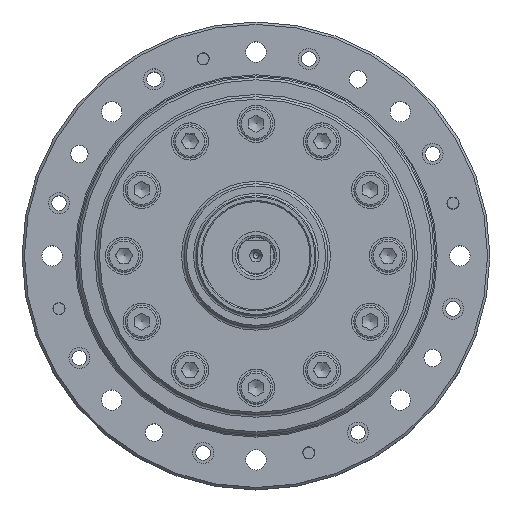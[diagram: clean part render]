
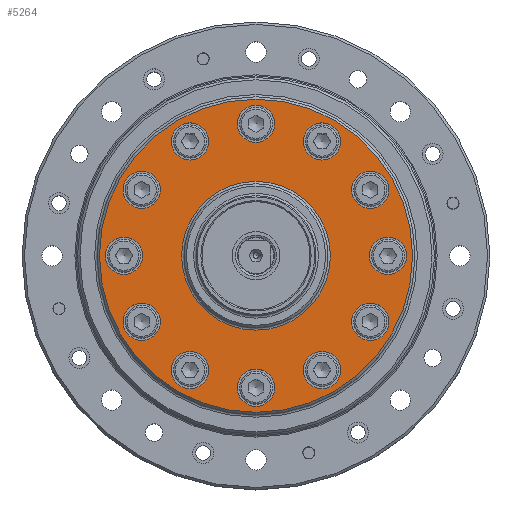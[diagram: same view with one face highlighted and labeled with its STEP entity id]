
A CAD part, top view. The second image highlights one B-rep face of the part: STEP entity #5264.
In plain terms, the highlighted planar face has unit normal (0, 0, 1).
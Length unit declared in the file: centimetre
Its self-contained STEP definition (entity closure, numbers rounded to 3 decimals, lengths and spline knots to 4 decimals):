
#854=PLANE('',#5918);
#1220=FACE_BOUND('',#2166,.T.);
#1221=FACE_BOUND('',#2167,.T.);
#1222=FACE_BOUND('',#2168,.T.);
#1223=FACE_BOUND('',#2169,.T.);
#1224=FACE_BOUND('',#2170,.T.);
#1225=FACE_BOUND('',#2171,.T.);
#1226=FACE_BOUND('',#2172,.T.);
#1227=FACE_BOUND('',#2173,.T.);
#1228=FACE_BOUND('',#2174,.T.);
#1229=FACE_BOUND('',#2175,.T.);
#1230=FACE_BOUND('',#2176,.T.);
#1231=FACE_BOUND('',#2177,.T.);
#1232=FACE_BOUND('',#2178,.T.);
#1521=FACE_OUTER_BOUND('',#2165,.T.);
#2165=EDGE_LOOP('',(#4531));
#2166=EDGE_LOOP('',(#4532));
#2167=EDGE_LOOP('',(#4533));
#2168=EDGE_LOOP('',(#4534));
#2169=EDGE_LOOP('',(#4535));
#2170=EDGE_LOOP('',(#4536));
#2171=EDGE_LOOP('',(#4537));
#2172=EDGE_LOOP('',(#4538));
#2173=EDGE_LOOP('',(#4539));
#2174=EDGE_LOOP('',(#4540));
#2175=EDGE_LOOP('',(#4541));
#2176=EDGE_LOOP('',(#4542));
#2177=EDGE_LOOP('',(#4543));
#2178=EDGE_LOOP('',(#4544));
#2536=CIRCLE('',#5845,0.31);
#2538=CIRCLE('',#5849,0.31);
#2540=CIRCLE('',#5853,0.31);
#2542=CIRCLE('',#5857,0.31);
#2544=CIRCLE('',#5861,0.31);
#2546=CIRCLE('',#5865,0.31);
#2548=CIRCLE('',#5869,0.31);
#2551=CIRCLE('',#5874,0.31);
#2554=CIRCLE('',#5879,0.31);
#2557=CIRCLE('',#5884,0.31);
#2560=CIRCLE('',#5889,0.31);
#2563=CIRCLE('',#5894,0.31);
#2567=CIRCLE('',#5900,2.61);
#2578=CIRCLE('',#5919,1.24);
#2950=VERTEX_POINT('',#8729);
#2952=VERTEX_POINT('',#8735);
#2954=VERTEX_POINT('',#8741);
#2956=VERTEX_POINT('',#8747);
#2958=VERTEX_POINT('',#8753);
#2960=VERTEX_POINT('',#8759);
#2962=VERTEX_POINT('',#8765);
#2965=VERTEX_POINT('',#8773);
#2968=VERTEX_POINT('',#8781);
#2971=VERTEX_POINT('',#8789);
#2974=VERTEX_POINT('',#8797);
#2977=VERTEX_POINT('',#8805);
#2981=VERTEX_POINT('',#8815);
#2992=VERTEX_POINT('',#8845);
#3500=EDGE_CURVE('',#2950,#2950,#2536,.T.);
#3502=EDGE_CURVE('',#2952,#2952,#2538,.T.);
#3504=EDGE_CURVE('',#2954,#2954,#2540,.T.);
#3506=EDGE_CURVE('',#2956,#2956,#2542,.T.);
#3508=EDGE_CURVE('',#2958,#2958,#2544,.T.);
#3510=EDGE_CURVE('',#2960,#2960,#2546,.T.);
#3512=EDGE_CURVE('',#2962,#2962,#2548,.T.);
#3515=EDGE_CURVE('',#2965,#2965,#2551,.T.);
#3518=EDGE_CURVE('',#2968,#2968,#2554,.T.);
#3521=EDGE_CURVE('',#2971,#2971,#2557,.T.);
#3524=EDGE_CURVE('',#2974,#2974,#2560,.T.);
#3527=EDGE_CURVE('',#2977,#2977,#2563,.T.);
#3531=EDGE_CURVE('',#2981,#2981,#2567,.T.);
#3542=EDGE_CURVE('',#2992,#2992,#2578,.T.);
#4531=ORIENTED_EDGE('',*,*,#3531,.F.);
#4532=ORIENTED_EDGE('',*,*,#3527,.T.);
#4533=ORIENTED_EDGE('',*,*,#3524,.T.);
#4534=ORIENTED_EDGE('',*,*,#3521,.T.);
#4535=ORIENTED_EDGE('',*,*,#3518,.T.);
#4536=ORIENTED_EDGE('',*,*,#3515,.T.);
#4537=ORIENTED_EDGE('',*,*,#3512,.T.);
#4538=ORIENTED_EDGE('',*,*,#3510,.T.);
#4539=ORIENTED_EDGE('',*,*,#3508,.T.);
#4540=ORIENTED_EDGE('',*,*,#3506,.T.);
#4541=ORIENTED_EDGE('',*,*,#3504,.T.);
#4542=ORIENTED_EDGE('',*,*,#3502,.T.);
#4543=ORIENTED_EDGE('',*,*,#3500,.T.);
#4544=ORIENTED_EDGE('',*,*,#3542,.F.);
#5264=ADVANCED_FACE('',(#1521,#1220,#1221,#1222,#1223,#1224,#1225,#1226,
#1227,#1228,#1229,#1230,#1231,#1232),#854,.T.);
#5845=AXIS2_PLACEMENT_3D('',#8730,#7117,#7118);
#5849=AXIS2_PLACEMENT_3D('',#8736,#7125,#7126);
#5853=AXIS2_PLACEMENT_3D('',#8742,#7133,#7134);
#5857=AXIS2_PLACEMENT_3D('',#8748,#7141,#7142);
#5861=AXIS2_PLACEMENT_3D('',#8754,#7149,#7150);
#5865=AXIS2_PLACEMENT_3D('',#8760,#7157,#7158);
#5869=AXIS2_PLACEMENT_3D('',#8766,#7165,#7166);
#5874=AXIS2_PLACEMENT_3D('',#8774,#7175,#7176);
#5879=AXIS2_PLACEMENT_3D('',#8782,#7185,#7186);
#5884=AXIS2_PLACEMENT_3D('',#8790,#7195,#7196);
#5889=AXIS2_PLACEMENT_3D('',#8798,#7205,#7206);
#5894=AXIS2_PLACEMENT_3D('',#8806,#7215,#7216);
#5900=AXIS2_PLACEMENT_3D('',#8816,#7227,#7228);
#5918=AXIS2_PLACEMENT_3D('',#8844,#7263,#7264);
#5919=AXIS2_PLACEMENT_3D('',#8846,#7265,#7266);
#7117=DIRECTION('center_axis',(0.,0.,
-1.));
#7118=DIRECTION('ref_axis',(1.,0.,0.));
#7125=DIRECTION('center_axis',(0.,0.,
-1.));
#7126=DIRECTION('ref_axis',(1.,0.,0.));
#7133=DIRECTION('center_axis',(0.,0.,
-1.));
#7134=DIRECTION('ref_axis',(1.,0.,0.));
#7141=DIRECTION('center_axis',(0.,0.,
-1.));
#7142=DIRECTION('ref_axis',(1.,0.,0.));
#7149=DIRECTION('center_axis',(0.,0.,
-1.));
#7150=DIRECTION('ref_axis',(1.,0.,0.));
#7157=DIRECTION('center_axis',(0.,0.,
-1.));
#7158=DIRECTION('ref_axis',(1.,0.,0.));
#7165=DIRECTION('center_axis',(0.,0.,
-1.));
#7166=DIRECTION('ref_axis',(1.,0.,0.));
#7175=DIRECTION('center_axis',(0.,0.,
-1.));
#7176=DIRECTION('ref_axis',(1.,0.,0.));
#7185=DIRECTION('center_axis',(0.,0.,
-1.));
#7186=DIRECTION('ref_axis',(1.,0.,0.));
#7195=DIRECTION('center_axis',(0.,0.,
-1.));
#7196=DIRECTION('ref_axis',(1.,0.,0.));
#7205=DIRECTION('center_axis',(0.,0.,
-1.));
#7206=DIRECTION('ref_axis',(1.,0.,0.));
#7215=DIRECTION('center_axis',(0.,0.,
-1.));
#7216=DIRECTION('ref_axis',(1.,0.,0.));
#7227=DIRECTION('center_axis',(0.,0.,
-1.));
#7228=DIRECTION('ref_axis',(0.,1.,0.));
#7263=DIRECTION('center_axis',(0.,0.,
1.));
#7264=DIRECTION('ref_axis',(1.,0.,0.));
#7265=DIRECTION('center_axis',(0.,0.,
1.));
#7266=DIRECTION('ref_axis',(0.,1.,0.));
#8729=CARTESIAN_POINT('',(1.41,1.9053,3.25));
#8730=CARTESIAN_POINT('Origin',(1.1,1.9053,3.25));
#8735=CARTESIAN_POINT('',(2.51,0.,3.25));
#8736=CARTESIAN_POINT('Origin',(2.2,0.,3.25));
#8741=CARTESIAN_POINT('',(1.41,-1.9053,3.25));
#8742=CARTESIAN_POINT('Origin',(1.1,-1.9053,3.25));
#8747=CARTESIAN_POINT('',(-0.79,-1.9053,3.25));
#8748=CARTESIAN_POINT('Origin',(-1.1,-1.9053,3.25));
#8753=CARTESIAN_POINT('',(-1.89,0.,3.25));
#8754=CARTESIAN_POINT('Origin',(-2.2,0.,3.25));
#8759=CARTESIAN_POINT('',(-0.79,1.9053,3.25));
#8760=CARTESIAN_POINT('Origin',(-1.1,1.9053,3.25));
#8765=CARTESIAN_POINT('',(0.31,2.2,3.25));
#8766=CARTESIAN_POINT('Origin',(0.,2.2,
3.25));
#8773=CARTESIAN_POINT('',(-1.5953,1.1,3.25));
#8774=CARTESIAN_POINT('Origin',(-1.9053,1.1,3.25));
#8781=CARTESIAN_POINT('',(-1.5953,-1.1,3.25));
#8782=CARTESIAN_POINT('Origin',(-1.9053,-1.1,3.25));
#8789=CARTESIAN_POINT('',(0.31,-2.2,3.25));
#8790=CARTESIAN_POINT('Origin',(0.,-2.2,
3.25));
#8797=CARTESIAN_POINT('',(2.2153,-1.1,3.25));
#8798=CARTESIAN_POINT('Origin',(1.9053,-1.1,3.25));
#8805=CARTESIAN_POINT('',(2.2153,1.1,3.25));
#8806=CARTESIAN_POINT('Origin',(1.9053,1.1,3.25));
#8815=CARTESIAN_POINT('',(0.,-2.61,3.25));
#8816=CARTESIAN_POINT('Origin',(0.,0.,
3.25));
#8844=CARTESIAN_POINT('Origin',(0.,-1.2,
3.25));
#8845=CARTESIAN_POINT('',(0.,-1.24,3.25));
#8846=CARTESIAN_POINT('Origin',(0.,0.,
3.25));
